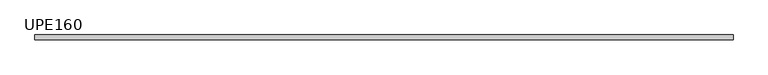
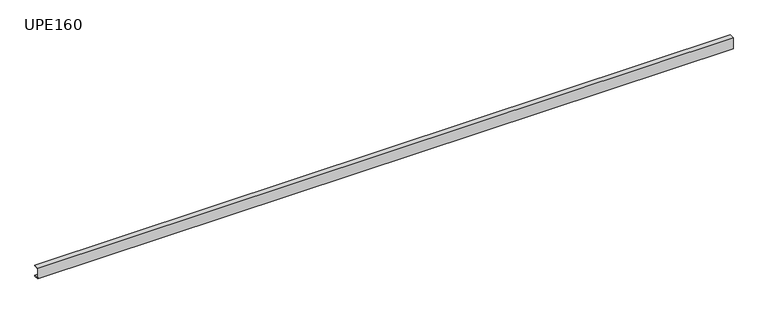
"""IFC4 building model written with IfcOpenShell, lengths in millimetres: beam geometry, U-Canales de ala paralela : UPE160."""

from ifc_helpers import new_model, si_unit, point, frame, frame_2d, origin, place, context, project, spatial, polyline, circle_curve, trimmed, segment, composite_curve, outline, extrude, source, transform, mapped, element, save


def upe160_38f508eb(model_context):
    return source(origin(), model_context, "Body", "SweptSolid", [
        extrude(outline(composite_curve([segment(polyline([(-22.7, 80.0), (47.3, 80.0), (47.3, 70.5), (-2.2, 70.5)]), True, "CONTINUOUS"), segment(trimmed(circle_curve(frame_2d((-2.2, 55.5)), 15.0), [point((-2.2, 70.5))], [point((-17.2, 55.5))], True, "CARTESIAN"), True, "CONTINUOUS"), segment(polyline([(-17.2, 55.5), (-17.2, -55.5)]), True, "CONTINUOUS"), segment(trimmed(circle_curve(frame_2d((-2.2, -55.5)), 15.0), [point((-17.2, -55.5))], [point((-2.2, -70.5))], True, "CARTESIAN"), True, "CONTINUOUS"), segment(polyline([(-2.2, -70.5), (47.3, -70.5), (47.3, -80.0), (-22.7, -80.0), (-22.7, 80.0)]), True, "CONTINUOUS")], self_intersect=False)), frame((-4810.0, 0.0, 0.0), z_axis=(1.0, 0.0, 0.0), x_axis=(0.0, 1.0, 0.0)), (0.0, 0.0, 1.0), 9610.7469737),
    ])


if __name__ == "__main__":
    model = new_model("IFC4")
    model_context = context("Model", 3, world=origin())
    ifc_project = project(units=[si_unit("LENGTHUNIT", "METRE", prefix="MILLI")], contexts=[model_context])
    site = spatial("IfcSite", under=ifc_project)
    building = spatial("IfcBuilding", under=site)
    placement = place(None, origin())
    upe160_shape = upe160_38f508eb(model_context)
    element("IfcBeam", 1, ObjectType="U-Canales de ala paralela : UPE160", at=placement, inside=building, context=model_context, shape_type="MappedRepresentation", body=[
        mapped(upe160_shape, transform((0.0, 0.0, 0.0), x_axis=(1.0, 0.0, 0.0), y_axis=(0.0, 1.0, 0.0), z_axis=(0.0, 0.0, 1.0))),
    ])
    save(model, "model.ifc")
